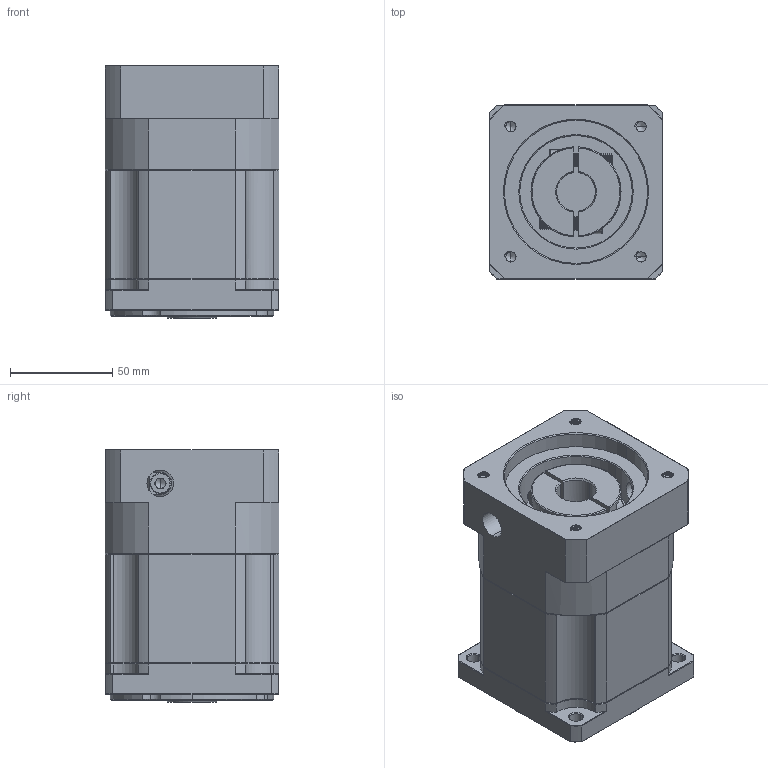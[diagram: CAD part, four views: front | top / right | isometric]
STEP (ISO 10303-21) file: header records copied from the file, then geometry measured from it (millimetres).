
FILE_DESCRIPTION (( 'STEP AP214' ), '1' );
FILE_NAME ('ZB090-K15-L2-P2-19-70-90-M6.step', '2023-08-18T12:18:25', ( '' ), ( '' ), 'SwSTEP 2.0', 'SolidWorks 2016', '' );
FILE_SCHEMA (( 'AUTOMOTIVE_DESIGN' ));
Length unit declared in the file: millimetre
Products named in the file (1): ZB090-K15-L2-P2-19-70-90-M6
Bounding box: 85 x 85 x 123.5 mm (x, y, z)
Volume: 711970.2 mm3; surface area: 89364.9 mm2
Topology: 4 solids, 4 shells, 2129 faces, 5692 edges, 3644 vertices
Faces by surface type: plane 1049, bspline 405, cylinder 352, cone 313, torus 10
Entity records: 114129 total; most frequent: CARTESIAN_POINT 40821, ORIENTED_EDGE 11344, DIRECTION 8812, EDGE_CURVE 5672, VECTOR 3650, LINE 3650, VERTEX_POINT 3644, AXIS2_PLACEMENT_3D 2581
